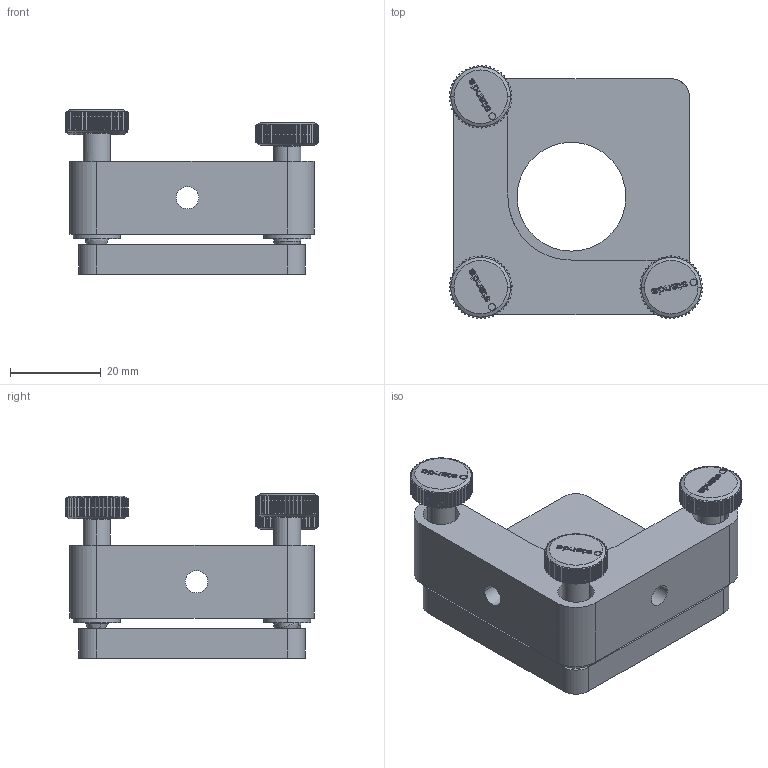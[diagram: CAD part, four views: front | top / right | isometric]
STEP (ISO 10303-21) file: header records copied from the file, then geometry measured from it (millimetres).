
FILE_DESCRIPTION (( 'STEP AP203' ), '1' );
FILE_NAME ('5MBM21-1-3.STEP', '2010-01-05T14:55:30', ( 'Darius' ), ( '' ), 'SwSTEP 2.0', 'SolidWorks 2003240', '' );
FILE_SCHEMA (( 'CONFIG_CONTROL_DESIGN' ));
Products named in the file (1): 5MBM21-1-3
Bounding box: 55.8 x 55.8 x 36.21 mm (x, y, z)
Volume: 32692 mm3; surface area: 14410 mm2
Topology: 1 solids, 3 shells, 1657 faces, 4722 edges, 3130 vertices
Faces by surface type: cylinder 711, plane 551, bspline 333, cone 62
Entity records: 69018 total; most frequent: CARTESIAN_POINT 30686, ORIENTED_EDGE 9424, DIRECTION 5669, EDGE_CURVE 4712, VERTEX_POINT 3130, B_SPLINE_CURVE_WITH_KNOTS 2223, VECTOR 1959, LINE 1959
